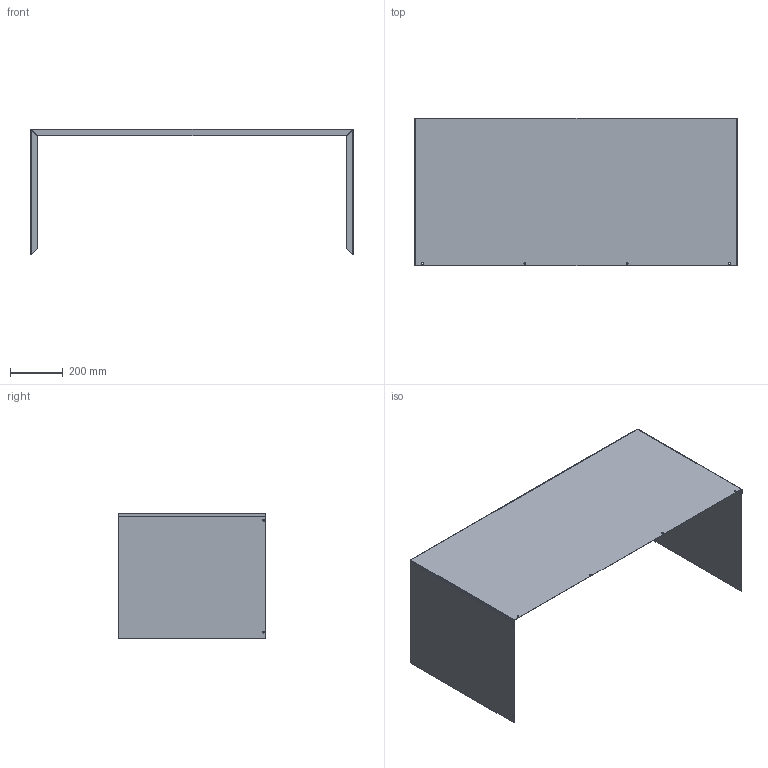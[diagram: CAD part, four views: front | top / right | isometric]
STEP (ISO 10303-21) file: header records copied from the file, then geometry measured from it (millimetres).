
FILE_DESCRIPTION (( 'STEP AP214' ), '1' );
FILE_NAME ('QPBX48-10.STEP', '2016-07-28T13:34:10', ( 'BMC' ), ( 'Bard Manufacturing Co., Inc.' ), 'SwSTEP 2.0', 'SolidWorks 2016', '' );
FILE_SCHEMA (( 'AUTOMOTIVE_DESIGN' ));
Length unit declared in the file: inch
Products named in the file (3): 104-1055; QPBX48-10; 104-1056
Assembly tree (3 placements, depth 2):
  QPBX48-10
    104-1056
    104-1055  x2
Bounding box: 1219.54 x 558.8 x 476.02 mm (x, y, z)
Volume: 1228260.6 mm3; surface area: 2552767.1 mm2
Topology: 3 solids, 3 shells, 88 faces, 206 edges, 124 vertices
Faces by surface type: plane 58, cylinder 26, bspline 4
Entity records: 2094 total; most frequent: CARTESIAN_POINT 382, DIRECTION 336, ORIENTED_EDGE 320, EDGE_CURVE 160, AXIS2_PLACEMENT_3D 112, VECTOR 112, LINE 112, VERTEX_POINT 96
